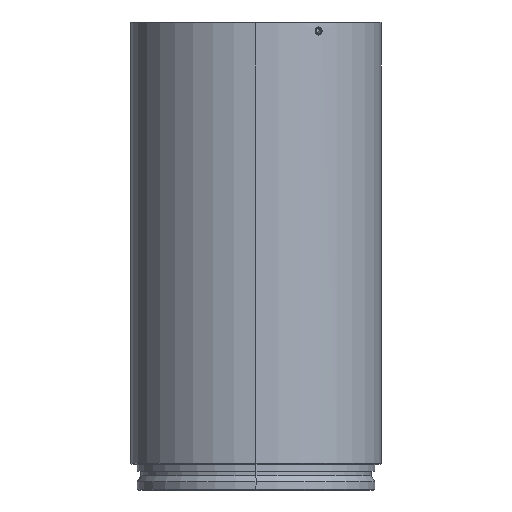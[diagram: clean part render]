
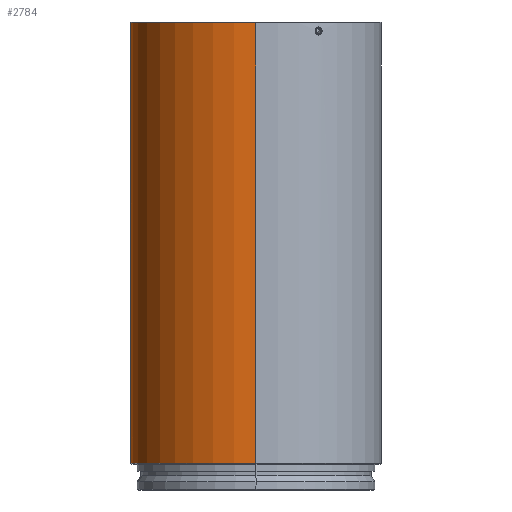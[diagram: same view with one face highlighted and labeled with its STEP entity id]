
A CAD part, left-side view. The second image highlights one B-rep face of the part: STEP entity #2784.
In plain terms, the highlighted cylindrical face has radius 39 mm (diameter 78 mm), a partial arc.
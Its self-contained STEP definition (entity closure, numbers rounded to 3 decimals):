
#14 = CARTESIAN_POINT ( 'NONE',  ( -0.961, 38.988, 182.375 ) ) ;
#26 = CYLINDRICAL_SURFACE ( 'NONE', #381, 39. ) ;
#35 = DIRECTION ( 'NONE',  ( 0., 0., 1. ) ) ;
#111 = CARTESIAN_POINT ( 'NONE',  ( 0.961, 38.988, 183.974 ) ) ;
#118 = EDGE_CURVE ( 'NONE', #883, #1041, #3169, .T. ) ;
#149 = CARTESIAN_POINT ( 'NONE',  ( 39., 0., 48.6 ) ) ;
#239 = B_SPLINE_CURVE_WITH_KNOTS ( 'NONE', 3,
 ( #2664, #3529, #1283, #3224, #2714, #794, #1022, #2423, #1536, #3474 ),
 .UNSPECIFIED., .F., .F.,
 ( 4, 2, 2, 2, 4 ),
 ( 0., 0.001, 0.001, 0.001, 0.002 ),
 .UNSPECIFIED. ) ;
#301 = B_SPLINE_CURVE_WITH_KNOTS ( 'NONE', 3,
 ( #2008, #3322, #859, #1970, #354, #3063, #2304, #3391 ),
 .UNSPECIFIED., .F., .F.,
 ( 4, 2, 2, 4 ),
 ( 0., 0., 0.001, 0.001 ),
 .UNSPECIFIED. ) ;
#354 = CARTESIAN_POINT ( 'NONE',  ( -0.448, 38.998, 184.345 ) ) ;
#360 = CARTESIAN_POINT ( 'NONE',  ( -39., 0., 48.6 ) ) ;
#371 = B_SPLINE_CURVE_WITH_KNOTS ( 'NONE', 3,
 ( #2727, #1365, #1623, #2712, #3491, #3548, #3506, #3222 ),
 .UNSPECIFIED., .F., .F.,
 ( 4, 2, 2, 4 ),
 ( 0.007, 0.007, 0.007, 0.008 ),
 .UNSPECIFIED. ) ;
#381 = AXIS2_PLACEMENT_3D ( 'NONE', #785, #917, #1735 ) ;
#388 = ORIENTED_EDGE ( 'NONE', *, *, #503, .F. ) ;
#438 = CARTESIAN_POINT ( 'NONE',  ( 0., 0., 48.6 ) ) ;
#489 = AXIS2_PLACEMENT_3D ( 'NONE', #877, #2605, #3339 ) ;
#503 = EDGE_CURVE ( 'NONE', #511, #1461, #2144, .T. ) ;
#511 = VERTEX_POINT ( 'NONE', #1179 ) ;
#517 = CARTESIAN_POINT ( 'NONE',  ( 0.692, 38.994, 182.13 ) ) ;
#534 = CARTESIAN_POINT ( 'NONE',  ( -0.961, 38.988, 182.375 ) ) ;
#571 = CARTESIAN_POINT ( 'NONE',  ( -0.614, 38.995, 182.081 ) ) ;
#587 = CARTESIAN_POINT ( 'NONE',  ( -0.835, 38.991, 182.24 ) ) ;
#611 = EDGE_CURVE ( 'NONE', #1200, #774, #239, .T. ) ;
#643 = EDGE_LOOP ( 'NONE', ( #1530, #2137, #388, #1800, #2541 ) ) ;
#655 = CARTESIAN_POINT ( 'NONE',  ( 1.057, 38.986, 183.865 ) ) ;
#689 = EDGE_CURVE ( 'NONE', #3060, #883, #1891, .T. ) ;
#774 = VERTEX_POINT ( 'NONE', #2477 ) ;
#785 = CARTESIAN_POINT ( 'NONE',  ( 0., 0., 179.046 ) ) ;
#794 = CARTESIAN_POINT ( 'NONE',  ( -1.265, 38.979, 183.32 ) ) ;
#839 = CARTESIAN_POINT ( 'NONE',  ( 0.183, 39., 181.924 ) ) ;
#859 = CARTESIAN_POINT ( 'NONE',  ( -0.183, 39., 184.414 ) ) ;
#877 = CARTESIAN_POINT ( 'NONE',  ( 0., 0., 185.674 ) ) ;
#883 = VERTEX_POINT ( 'NONE', #360 ) ;
#917 = DIRECTION ( 'NONE',  ( 0., 0., 1. ) ) ;
#927 = CARTESIAN_POINT ( 'NONE',  ( 1.134, 38.984, 182.611 ) ) ;
#1022 = CARTESIAN_POINT ( 'NONE',  ( -1.238, 38.98, 183.466 ) ) ;
#1041 = VERTEX_POINT ( 'NONE', #1315 ) ;
#1056 = VERTEX_POINT ( 'NONE', #1548 ) ;
#1082 = CARTESIAN_POINT ( 'NONE',  ( 0.837, 38.991, 182.241 ) ) ;
#1097 = VECTOR ( 'NONE', #3399, 1000. ) ;
#1179 = CARTESIAN_POINT ( 'NONE',  ( 0.961, 38.988, 183.974 ) ) ;
#1200 = VERTEX_POINT ( 'NONE', #14 ) ;
#1237 = LINE ( 'NONE', #2290, #2301 ) ;
#1283 = CARTESIAN_POINT ( 'NONE',  ( -1.134, 38.984, 182.611 ) ) ;
#1315 = CARTESIAN_POINT ( 'NONE',  ( -39., 0., 185.674 ) ) ;
#1340 = ORIENTED_EDGE ( 'NONE', *, *, #118, .T. ) ;
#1353 = EDGE_LOOP ( 'NONE', ( #3085, #1340, #1622, #3495 ) ) ;
#1365 = CARTESIAN_POINT ( 'NONE',  ( 0.902, 38.99, 184.045 ) ) ;
#1392 = FACE_BOUND ( 'NONE', #643, .T. ) ;
#1461 = VERTEX_POINT ( 'NONE', #3452 ) ;
#1530 = ORIENTED_EDGE ( 'NONE', *, *, #611, .F. ) ;
#1536 = CARTESIAN_POINT ( 'NONE',  ( -1.057, 38.986, 183.865 ) ) ;
#1548 = CARTESIAN_POINT ( 'NONE',  ( 0., 39., 184.424 ) ) ;
#1591 = DIRECTION ( 'NONE',  ( 0., 0., 1. ) ) ;
#1618 = CARTESIAN_POINT ( 'NONE',  ( -0.183, 39., 181.935 ) ) ;
#1622 = ORIENTED_EDGE ( 'NONE', *, *, #1672, .T. ) ;
#1623 = CARTESIAN_POINT ( 'NONE',  ( 0.836, 38.991, 184.108 ) ) ;
#1633 = CARTESIAN_POINT ( 'NONE',  ( -0.447, 38.998, 182.003 ) ) ;
#1657 = CARTESIAN_POINT ( 'NONE',  ( 0.961, 38.988, 182.375 ) ) ;
#1672 = EDGE_CURVE ( 'NONE', #1041, #3106, #2908, .T. ) ;
#1674 = CARTESIAN_POINT ( 'NONE',  ( 0.902, 38.99, 182.304 ) ) ;
#1692 = CARTESIAN_POINT ( 'NONE',  ( 0.613, 38.995, 182.081 ) ) ;
#1735 = DIRECTION ( 'NONE',  ( 1., 0., 0. ) ) ;
#1762 = CARTESIAN_POINT ( 'NONE',  ( 1.134, 38.984, 183.738 ) ) ;
#1800 = ORIENTED_EDGE ( 'NONE', *, *, #2322, .T. ) ;
#1802 = EDGE_CURVE ( 'NONE', #1056, #774, #301, .T. ) ;
#1891 = CIRCLE ( 'NONE', #3261, 39. ) ;
#1970 = CARTESIAN_POINT ( 'NONE',  ( -0.36, 38.998, 184.375 ) ) ;
#2008 = CARTESIAN_POINT ( 'NONE',  ( 0., 39., 184.424 ) ) ;
#2097 = CARTESIAN_POINT ( 'NONE',  ( 1.265, 38.979, 183.32 ) ) ;
#2137 = ORIENTED_EDGE ( 'NONE', *, *, #2729, .T. ) ;
#2144 = B_SPLINE_CURVE_WITH_KNOTS ( 'NONE', 3,
 ( #111, #655, #1762, #2582, #2097, #2564, #3155, #927, #3110, #2909 ),
 .UNSPECIFIED., .F., .F.,
 ( 4, 2, 2, 2, 4 ),
 ( 0.004, 0.004, 0.005, 0.005, 0.006 ),
 .UNSPECIFIED. ) ;
#2173 = CARTESIAN_POINT ( 'NONE',  ( -0.691, 38.994, 182.129 ) ) ;
#2290 = CARTESIAN_POINT ( 'NONE',  ( 39., 0., 179.046 ) ) ;
#2301 = VECTOR ( 'NONE', #35, 1000. ) ;
#2304 = CARTESIAN_POINT ( 'NONE',  ( -0.844, 38.991, 184.114 ) ) ;
#2322 = EDGE_CURVE ( 'NONE', #511, #1056, #371, .T. ) ;
#2331 = CARTESIAN_POINT ( 'NONE',  ( -39., 0., 179.046 ) ) ;
#2423 = CARTESIAN_POINT ( 'NONE',  ( -1.134, 38.984, 183.738 ) ) ;
#2477 = CARTESIAN_POINT ( 'NONE',  ( -0.961, 38.988, 183.974 ) ) ;
#2487 = CARTESIAN_POINT ( 'NONE',  ( -0.09, 39., 181.924 ) ) ;
#2504 = EDGE_CURVE ( 'NONE', #3060, #3106, #1237, .T. ) ;
#2513 = FACE_OUTER_BOUND ( 'NONE', #1353, .T. ) ;
#2541 = ORIENTED_EDGE ( 'NONE', *, *, #1802, .T. ) ;
#2564 = CARTESIAN_POINT ( 'NONE',  ( 1.265, 38.979, 183.029 ) ) ;
#2582 = CARTESIAN_POINT ( 'NONE',  ( 1.238, 38.98, 183.467 ) ) ;
#2605 = DIRECTION ( 'NONE',  ( 0., 0., -1. ) ) ;
#2664 = CARTESIAN_POINT ( 'NONE',  ( -0.961, 38.988, 182.375 ) ) ;
#2698 = DIRECTION ( 'NONE',  ( 1., 0., 0. ) ) ;
#2712 = CARTESIAN_POINT ( 'NONE',  ( 0.693, 38.994, 184.219 ) ) ;
#2714 = CARTESIAN_POINT ( 'NONE',  ( -1.265, 38.979, 183.029 ) ) ;
#2727 = CARTESIAN_POINT ( 'NONE',  ( 0.961, 38.988, 183.974 ) ) ;
#2729 = EDGE_CURVE ( 'NONE', #1200, #1461, #3407, .T. ) ;
#2784 = ADVANCED_FACE ( 'NONE', ( #1392, #2513 ), #26, .T. ) ;
#2908 = CIRCLE ( 'NONE', #489, 39. ) ;
#2909 = CARTESIAN_POINT ( 'NONE',  ( 0.961, 38.988, 182.375 ) ) ;
#2991 = CARTESIAN_POINT ( 'NONE',  ( -0.361, 38.998, 181.974 ) ) ;
#3060 = VERTEX_POINT ( 'NONE', #149 ) ;
#3063 = CARTESIAN_POINT ( 'NONE',  ( -0.696, 38.994, 184.229 ) ) ;
#3085 = ORIENTED_EDGE ( 'NONE', *, *, #689, .T. ) ;
#3106 = VERTEX_POINT ( 'NONE', #3556 ) ;
#3110 = CARTESIAN_POINT ( 'NONE',  ( 1.057, 38.986, 182.484 ) ) ;
#3155 = CARTESIAN_POINT ( 'NONE',  ( 1.238, 38.98, 182.883 ) ) ;
#3169 = LINE ( 'NONE', #2331, #1097 ) ;
#3222 = CARTESIAN_POINT ( 'NONE',  ( 0., 39., 184.424 ) ) ;
#3224 = CARTESIAN_POINT ( 'NONE',  ( -1.238, 38.98, 182.883 ) ) ;
#3261 = AXIS2_PLACEMENT_3D ( 'NONE', #438, #1591, #2698 ) ;
#3322 = CARTESIAN_POINT ( 'NONE',  ( -0.092, 39., 184.424 ) ) ;
#3339 = DIRECTION ( 'NONE',  ( -1., 0., 0. ) ) ;
#3391 = CARTESIAN_POINT ( 'NONE',  ( -0.961, 38.988, 183.974 ) ) ;
#3399 = DIRECTION ( 'NONE',  ( 0., 0., 1. ) ) ;
#3407 = B_SPLINE_CURVE_WITH_KNOTS ( 'NONE', 3,
 ( #534, #3539, #587, #2173, #571, #1633, #2991, #1618, #2487, #839, #3560, #1692, #517, #1082, #1674, #1657 ),
 .UNSPECIFIED., .F., .F.,
 ( 4, 2, 2, 2, 2, 2, 2, 4 ),
 ( 0.003, 0.003, 0.003, 0.004, 0.004, 0.004, 0.005, 0.005 ),
 .UNSPECIFIED. ) ;
#3452 = CARTESIAN_POINT ( 'NONE',  ( 0.961, 38.988, 182.375 ) ) ;
#3474 = CARTESIAN_POINT ( 'NONE',  ( -0.961, 38.988, 183.974 ) ) ;
#3491 = CARTESIAN_POINT ( 'NONE',  ( 0.613, 38.995, 184.267 ) ) ;
#3495 = ORIENTED_EDGE ( 'NONE', *, *, #2504, .F. ) ;
#3506 = CARTESIAN_POINT ( 'NONE',  ( 0.184, 39., 184.424 ) ) ;
#3529 = CARTESIAN_POINT ( 'NONE',  ( -1.057, 38.986, 182.484 ) ) ;
#3539 = CARTESIAN_POINT ( 'NONE',  ( -0.902, 38.99, 182.305 ) ) ;
#3548 = CARTESIAN_POINT ( 'NONE',  ( 0.366, 38.999, 184.383 ) ) ;
#3556 = CARTESIAN_POINT ( 'NONE',  ( 39., 0., 185.674 ) ) ;
#3560 = CARTESIAN_POINT ( 'NONE',  ( 0.366, 38.999, 181.965 ) ) ;
